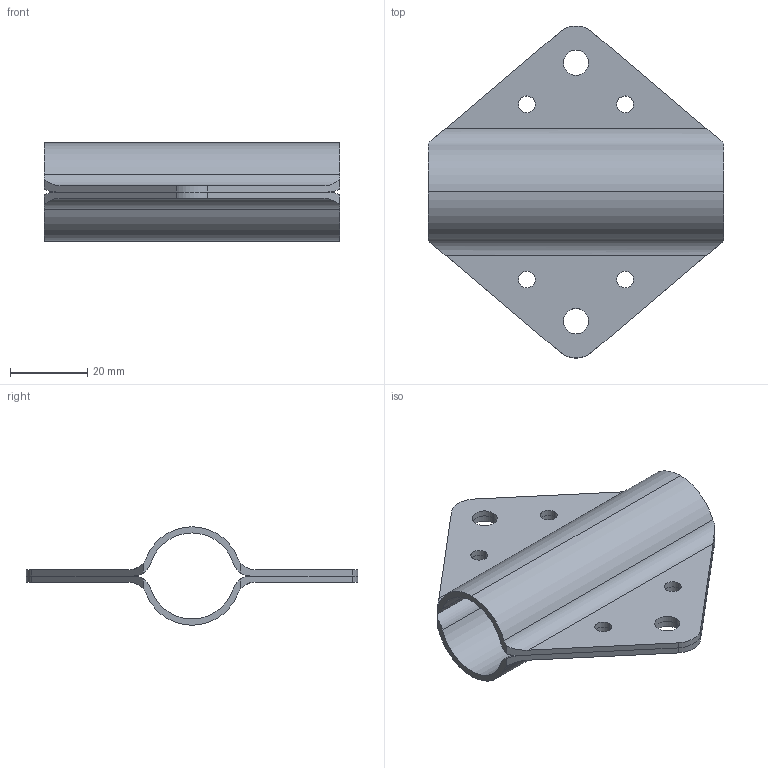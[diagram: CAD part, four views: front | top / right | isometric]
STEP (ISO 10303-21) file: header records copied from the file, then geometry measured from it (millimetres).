
FILE_DESCRIPTION (( 'STEP AP203' ), '1' );
FILE_NAME ('FDPCK-MC.75-EMB-1-1.step', '2019-09-11T18:30:58', ( 'ydmin' ), ( '' ), 'SwSTEP 2.0', 'SolidWorks 2017', '' );
FILE_SCHEMA (( 'CONFIG_CONTROL_DESIGN' ));
Length unit declared in the file: inch
Products named in the file (1): FDPCK-MC.75-EMB-1-1
Bounding box: 76.2 x 85.69 x 25.4 mm (x, y, z)
Volume: 16195 mm3; surface area: 21046.2 mm2
Topology: 2 solids, 2 shells, 62 faces, 174 edges, 116 vertices
Faces by surface type: cylinder 42, plane 20
Entity records: 2167 total; most frequent: CARTESIAN_POINT 401, DIRECTION 368, ORIENTED_EDGE 348, EDGE_CURVE 174, AXIS2_PLACEMENT_3D 147, VERTEX_POINT 116, EDGE_LOOP 86, CIRCLE 84
